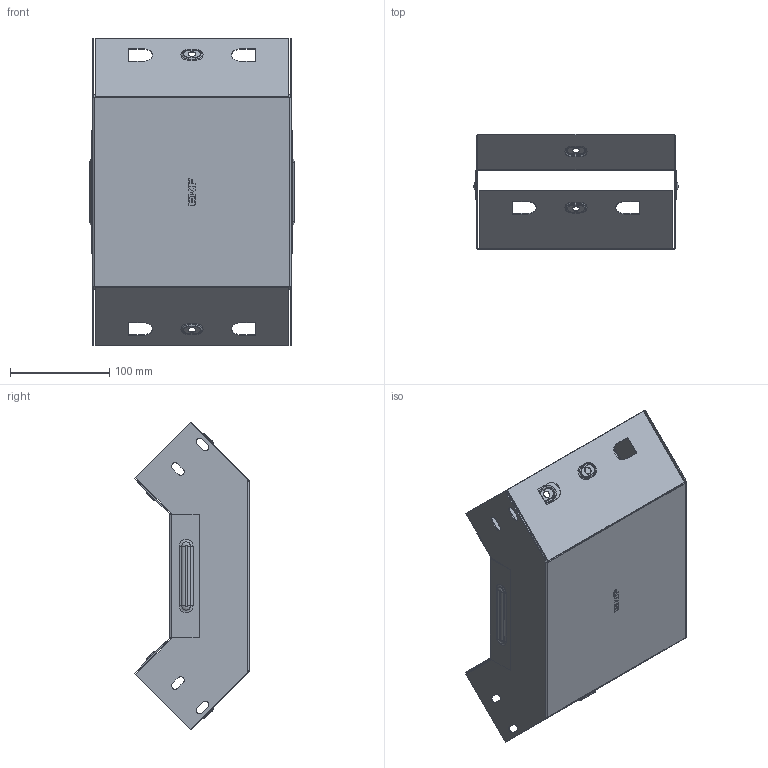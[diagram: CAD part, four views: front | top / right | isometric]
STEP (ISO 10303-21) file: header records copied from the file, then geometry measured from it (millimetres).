
FILE_DESCRIPTION (( 'STEP AP214' ), '1' );
FILE_NAME ('vi9080200_捘.STEP', '2019-06-10T09:28:07', ( '砐錪賧瘔蠈錪 Windows' ), ( '' ), 'SwSTEP 2.0', 'SolidWorks 2018', '' );
FILE_SCHEMA (( 'AUTOMOTIVE_DESIGN' ));
Length unit declared in the file: millimetre
Products named in the file (1): vi9080200_捘
Bounding box: 205.6 x 116.16 x 310.02 mm (x, y, z)
Volume: 133235.2 mm3; surface area: 335887.5 mm2
Topology: 2 solids, 2 shells, 452 faces, 1164 edges, 744 vertices
Faces by surface type: plane 242, cylinder 128, torus 64, bspline 18
Entity records: 14672 total; most frequent: CARTESIAN_POINT 3380, DIRECTION 2350, ORIENTED_EDGE 2328, EDGE_CURVE 1164, AXIS2_PLACEMENT_3D 787, LINE 776, VECTOR 776, VERTEX_POINT 744
